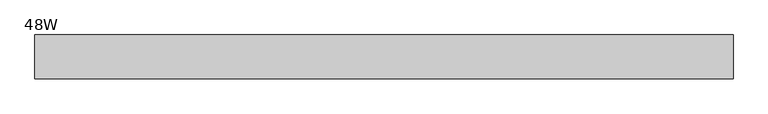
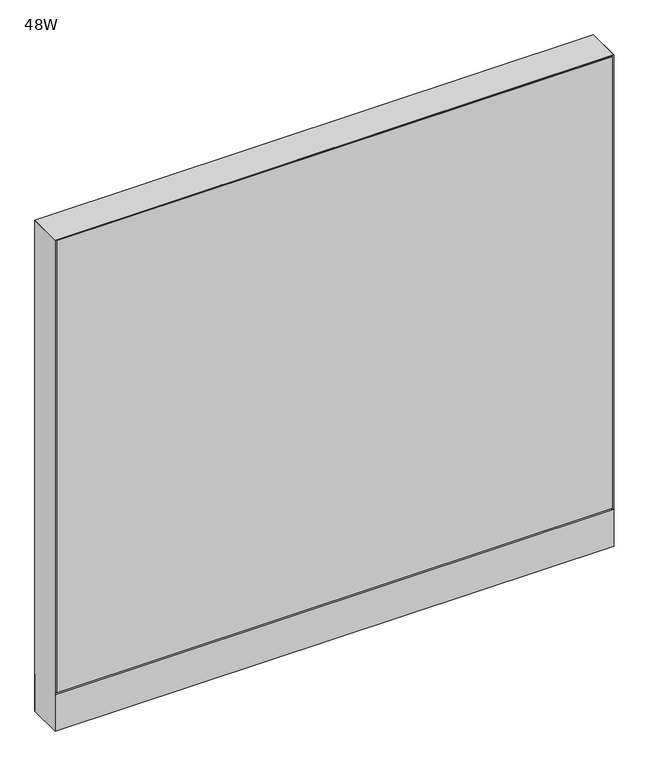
"""IFC4 building model written with IfcOpenShell, lengths in millimetres: furniture geometry, Steelcase - Montage - Frame - 45H - Enhanced Monolithic - Base Cavity : 48W."""

from ifc_helpers import new_model, si_unit, point, frame, frame_2d, origin, origin_with_axes, place, context, project, spatial, polyline, circle_curve, trimmed, segment, composite_curve, outline, extrude, faceted_brep, source, transform, mapped, element, save


def furniture_48w_716ff22a(model_context):
    return source(origin(), model_context, "Body", "SolidModel", [
        extrude(outline(polyline([(3.175, 31.7500194), (3.175, 38.1000194), (1216.025, 38.1000194), (1216.025, 31.7500194), (3.175, 31.7500194)])), frame((0.0, 0.0, 92.075), z_axis=(0.0, 0.0, 1.0), x_axis=(1.0, 0.0, 0.0)), (0.0, 0.0, 1.0), 1041.4),
        extrude(outline(polyline([(3.175, -31.7500194), (1216.025, -31.7500194), (1216.025, -38.1000194), (3.175, -38.1000194), (3.175, -31.7500194)])), frame((0.0, 0.0, 92.075), z_axis=(0.0, 0.0, 1.0), x_axis=(1.0, 0.0, 0.0)), (0.0, 0.0, 1.0), 1041.4),
        extrude(outline(polyline([(6.350003, -31.7499985), (1212.849997, -31.7499985), (1219.2, -38.1000015), (0.0, -38.1000015), (6.350003, -31.7499985)])), frame((0.0, 0.0, 4.064), z_axis=(0.0, 0.0, 1.0), x_axis=(1.0, 0.0, 0.0)), (0.0, 0.0, 1.0), 84.835997),
        extrude(outline(polyline([(6.3500002, 31.7500017), (0.0, 38.1000015), (1219.2, 38.1000015), (1212.8500002, 31.7500017), (6.3500002, 31.7500017)])), frame((0.0, 0.0, 4.064), z_axis=(0.0, 0.0, 1.0), x_axis=(1.0, 0.0, 0.0)), (0.0, 0.0, 1.0), 84.835997),
        faceted_brep([(1219.2, -38.1000015, 1136.65), (0.0, -38.1000015, 1136.65), (6.3500484, -31.749953, 1130.2999516), (1212.8499516, -31.749953, 1130.2999516), (6.3500484, 31.749953, 1130.2999516), (1212.8499516, 31.749953, 1130.2999516), (0.0, 38.1000015, 1136.65), (1219.2, 38.1000015, 1136.65)], [[[0, 1, 2, 3]], [[3, 2, 4, 5]], [[6, 7, 5, 4]], [[1, 0, 7, 6]], [[2, 1, 6, 4]], [[0, 3, 5, 7]]]),
        extrude(outline(composite_curve([segment(trimmed(circle_curve(frame_2d((44.45, 0.0)), 15.24), [point((29.21, 0.0))], [point((59.69, 0.0))], False, "CARTESIAN"), True, "CONTINUOUS"), segment(trimmed(circle_curve(frame_2d((44.45, 0.0)), 15.24), [point((59.69, 0.0))], [point((29.21, 0.0))], False, "CARTESIAN"), True, "CONTINUOUS")], self_intersect=False)), origin_with_axes(), (0.0, 0.0, 1.0), 4.064),
        extrude(outline(composite_curve([segment(trimmed(circle_curve(frame_2d((1174.75, 0.0)), 15.24), [point((1159.51, 0.0))], [point((1189.99, 0.0))], False, "CARTESIAN"), True, "CONTINUOUS"), segment(trimmed(circle_curve(frame_2d((1174.75, 0.0)), 15.24), [point((1189.99, 0.0))], [point((1159.51, 0.0))], False, "CARTESIAN"), True, "CONTINUOUS")], self_intersect=False)), origin_with_axes(), (0.0, 0.0, 1.0), 4.064),
        faceted_brep([(1219.2, -38.1000106, 4.064), (1219.2, 38.1000015, 4.064), (1219.2, 38.1000015, 1136.65), (1219.2, -38.1000106, 1136.6499637), (0.0, 38.1000015, 4.064), (0.0, -38.1000015, 4.064), (0.0, -38.1000015, 1136.65), (0.0, 38.1000015, 1136.65), (1212.8499879, 31.7500017, 600.202), (6.35, 31.7500017, 600.202), (6.3499998, 31.7500017, 612.902), (1212.8499879, 31.7500017, 612.902), (6.35, -31.7499985, 612.902), (1212.8499879, -31.7499985, 612.902), (6.350003, -31.7499985, 600.202), (1212.8499879, -31.7499985, 600.202), (6.35, 31.7500015, 4.064), (6.35, -31.7500015, 4.064), (1212.8499879, 31.7499894, 4.064), (1212.8499879, -31.7499985, 4.064), (6.35, 31.7500015, 1130.3), (6.35, -31.7500015, 1130.3), (1212.8499879, -31.7499985, 1130.2999516), (1212.8499879, 31.7499895, 1130.2999516)], [[[0, 1, 2, 3]], [[4, 5, 6, 7]], [[8, 9, 10, 11]], [[11, 10, 12, 13]], [[13, 12, 14, 15]], [[9, 8, 15, 14]], [[16, 17, 5, 4]], [[18, 1, 0, 19]], [[16, 4, 7, 20, 10, 9]], [[5, 17, 14, 12, 21, 6]], [[12, 10, 20, 21]], [[17, 16, 9, 14]], [[11, 13, 22, 23]], [[18, 19, 15, 8]], [[19, 0, 3, 22, 13, 15]], [[1, 18, 8, 11, 23, 2]], [[7, 6, 21, 20]], [[3, 2, 23, 22]]]),
    ])


if __name__ == "__main__":
    model = new_model("IFC4")
    model_context = context("Model", 3, world=origin())
    ifc_project = project(units=[si_unit("LENGTHUNIT", "METRE", prefix="MILLI")], contexts=[model_context])
    site = spatial("IfcSite", under=ifc_project)
    building = spatial("IfcBuilding", under=site)
    placement = place(None, origin())
    furniture_48w_shape = furniture_48w_716ff22a(model_context)
    element("IfcFurniture", 1, ObjectType="Steelcase - Montage - Frame - 45H - Enhanced Monolithic - Base Cavity : 48W", at=placement, inside=building, context=model_context, shape_type="MappedRepresentation", body=[
        mapped(furniture_48w_shape, transform((0.0, 0.0, 0.0), x_axis=(1.0, 0.0, 0.0), y_axis=(0.0, 1.0, 0.0), z_axis=(0.0, 0.0, 1.0))),
    ])
    save(model, "model.ifc")
